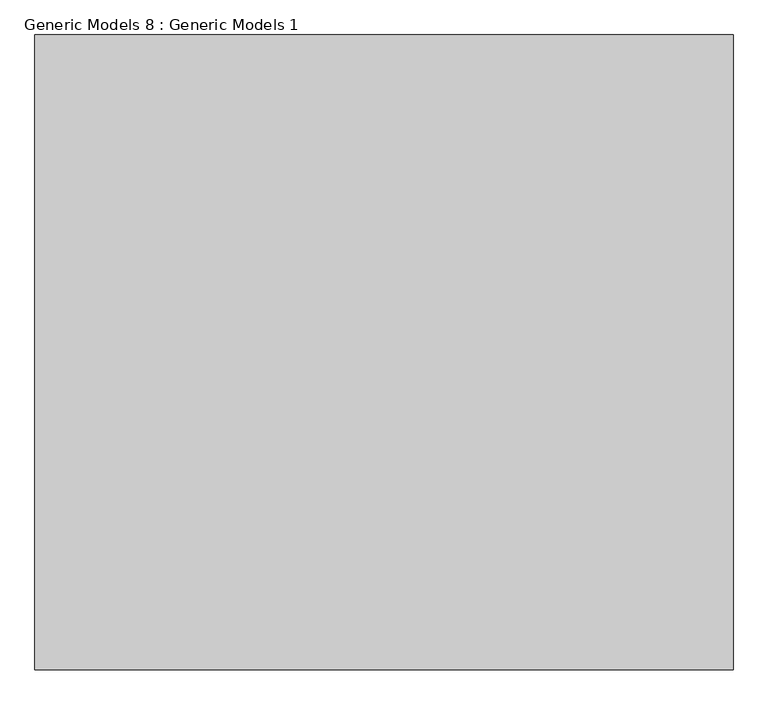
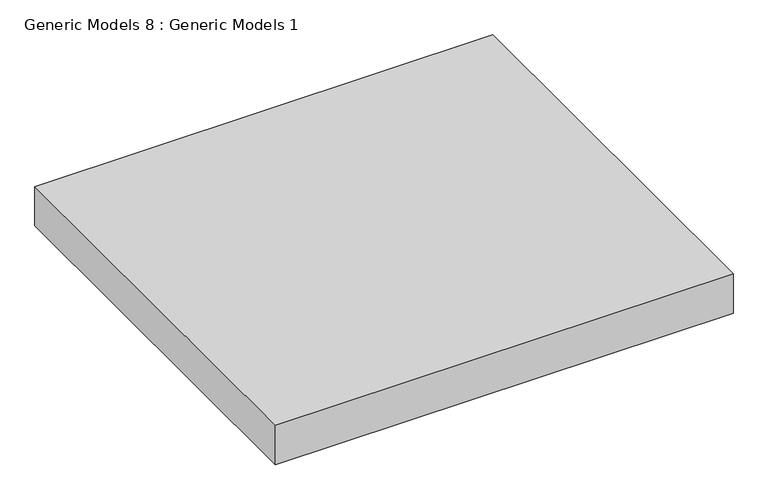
"""IFC4 building model written with IfcOpenShell, lengths in millimetres: proxy geometry, Generic Models 8 : Generic Models 1."""

from ifc_helpers import new_model, si_unit, origin, origin_with_axes, place, context, project, spatial, polyline, outline, extrude, source, transform, mapped, element, save


def generic_models_8_generic_models_1_6090e303(model_context):
    return source(origin(), model_context, "Body", "SweptSolid", [
        extrude(outline(polyline([(8715.6840593, -11014.0002483), (8715.6840593, -10014.0002483), (9815.6840593, -10014.0002483), (9815.6840593, -11014.0002483), (8715.6840593, -11014.0002483)])), origin_with_axes(), (0.0, 0.0, 1.0), 100.0),
    ])


if __name__ == "__main__":
    model = new_model("IFC4")
    model_context = context("Model", 3, world=origin())
    ifc_project = project(units=[si_unit("LENGTHUNIT", "METRE", prefix="MILLI")], contexts=[model_context])
    site = spatial("IfcSite", under=ifc_project)
    building = spatial("IfcBuilding", under=site)
    placement = place(None, origin())
    generic_models_8_generic_models_1_shape = generic_models_8_generic_models_1_6090e303(model_context)
    element("IfcBuildingElementProxy", 1, Name="Generic Models 8 : Generic Models 1", ObjectType="Generic Models 8 : Generic Models 1", at=placement, inside=building, context=model_context, shape_type="MappedRepresentation", body=[
        mapped(generic_models_8_generic_models_1_shape, transform((0.0, 0.0, 0.0), x_axis=(1.0, 0.0, 0.0), y_axis=(0.0, 1.0, 0.0), z_axis=(0.0, 0.0, 1.0))),
    ])
    save(model, "model.ifc")
